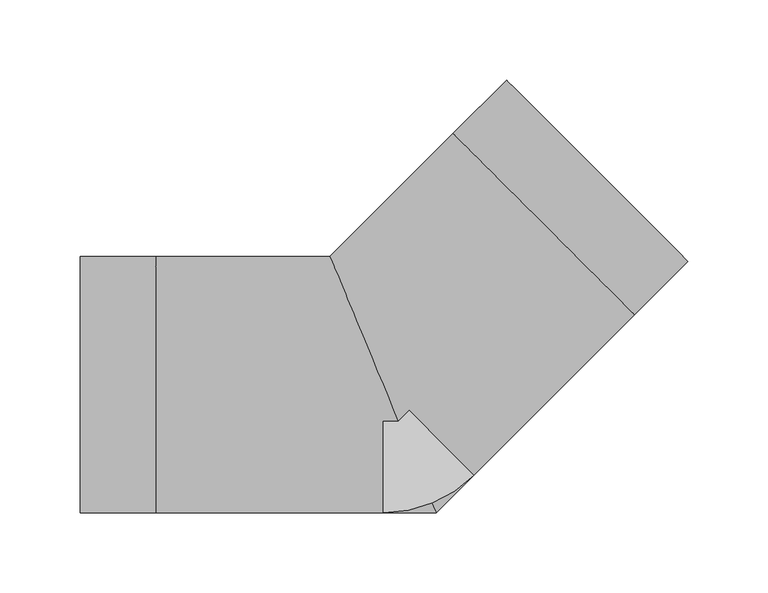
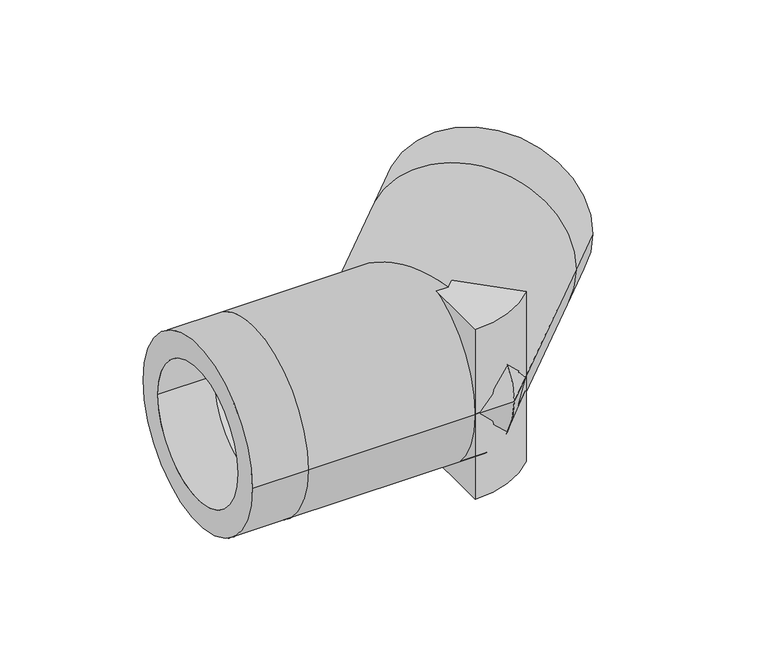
"""IFC4 building model written with IfcOpenShell, lengths in millimetres: pipe fitting geometry, Aquatherm - Elbow Green BW Segmented : SDR 7.4 FASER."""

from ifc_helpers import new_model, si_unit, point, frame, origin, origin_with_axes, origin_2d, place, context, project, spatial, polyline, circle_curve, ellipse_curve, trimmed, segment, composite_curve, outline, extrude, source, transform, mapped, element, save
from ifc_brep_helpers import plane_surface, cylinder_surface, revolved_surface, advanced_brep


def pipe_fitting_d16a7af6(model_context):
    return source(origin(), model_context, "Body", "SolidModel", [
        extrude(outline(composite_curve([segment(polyline([(0.0, -80.01), (0.0, 0.0), (56.5756136, -56.5756136)]), True, "CONTINUOUS"), segment(trimmed(circle_curve(origin_2d(), 80.01), [point((56.5756136, -56.5756136))], [point((0.0, -80.01))], False, "CARTESIAN"), True, "CONTINUOUS")], self_intersect=False)), frame((0.0, 0.0, -76.2), z_axis=(0.0, 0.0, 1.0), x_axis=(1.0, 0.0, 0.0)), (0.0, 0.0, 1.0), 76.2),
        extrude(outline(composite_curve([segment(trimmed(circle_curve(origin_2d(), 80.01), [point((56.5756136, -56.5756136))], [point((0.0, -80.01))], False, "CARTESIAN"), True, "CONTINUOUS"), segment(polyline([(0.0, -80.01), (0.0, 0.0), (56.5756136, -56.5756136)]), True, "CONTINUOUS")], self_intersect=False)), origin_with_axes(), (0.0, 0.0, 1.0), 76.2),
        advanced_brep(
        [(-188.976, -80.01, 0.0), (-188.976, 80.01, 0.0), (-188.976, -58.3811088, 0.0), (-188.976, 58.3811088, 0.0), (190.2018246, 77.0505975, 0.0), (77.0505975, 190.2018246, 0.0), (174.907889, 92.3445332, 0.0), (92.3445332, 174.907889, 0.0), (-141.732, -80.01, 0.0), (-141.732, 80.01, 0.0), (-141.732, -58.3811088, 0.0), (-141.732, 58.3811088, 0.0), (33.1412271, -80.01, 0.0), (-33.1412271, 80.01, 0.0), (24.182247, -58.3811088, 0.0), (-24.182247, 58.3811088, 0.0), (156.7952719, 43.6440447, 0.0), (43.6440447, 156.7952719, 0.0), (141.5013362, 58.9379804, 0.0), (58.9379804, 141.5013362, 0.0)],
        [
            (0, 1, circle_curve(frame((-188.976, 0.0, 0.0), z_axis=(-1.0, 0.0, 0.0), x_axis=(0.0, 1.0, 0.0)), 80.01)),
            (1, 0, circle_curve(frame((-188.976, 0.0, 0.0), z_axis=(-1.0, 0.0, 0.0), x_axis=(0.0, 1.0, 0.0)), 80.01)),
            (2, 3, circle_curve(frame((-188.976, 0.0, 0.0), z_axis=(1.0, 0.0, 0.0), x_axis=(0.0, 1.0, 0.0)), 58.3811088)),
            (3, 2, circle_curve(frame((-188.976, 0.0, 0.0), z_axis=(1.0, 0.0, 0.0), x_axis=(0.0, 1.0, 0.0)), 58.3811088)),
            (4, 5, circle_curve(frame((133.6262111, 133.6262111, 0.0), z_axis=(0.7071067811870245, 0.7071067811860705, 0.0), x_axis=(-0.7071067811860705, 0.7071067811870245, 0.0)), 80.01)),
            (5, 4, circle_curve(frame((133.6262111, 133.6262111, 0.0), z_axis=(0.7071067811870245, 0.7071067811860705, 0.0), x_axis=(-0.7071067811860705, 0.7071067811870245, 0.0)), 80.01)),
            (6, 7, circle_curve(frame((133.6262111, 133.6262111, 0.0), z_axis=(-0.7071067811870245, -0.7071067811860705, 0.0), x_axis=(-0.7071067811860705, 0.7071067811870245, 0.0)), 58.3811088)),
            (7, 6, circle_curve(frame((133.6262111, 133.6262111, 0.0), z_axis=(-0.7071067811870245, -0.7071067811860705, 0.0), x_axis=(-0.7071067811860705, 0.7071067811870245, 0.0)), 58.3811088)),
            (0, 8),
            (8, 9, circle_curve(frame((-141.732, 0.0, 0.0), z_axis=(-1.0, 0.0, 0.0), x_axis=(0.0, 1.0, 0.0)), 80.01)),
            (9, 1),
            (9, 8, circle_curve(frame((-141.732, 0.0, 0.0), z_axis=(-1.0, 0.0, 0.0), x_axis=(0.0, 1.0, 0.0)), 80.01)),
            (2, 10),
            (10, 11, circle_curve(frame((-141.732, 0.0, 0.0), z_axis=(1.0, 0.0, 0.0), x_axis=(0.0, 1.0, 0.0)), 58.3811088)),
            (11, 3),
            (11, 10, circle_curve(frame((-141.732, 0.0, 0.0), z_axis=(1.0, 0.0, 0.0), x_axis=(0.0, 1.0, 0.0)), 58.3811088)),
            (8, 12),
            (12, 13, ellipse_curve(frame((0.0, 0.0, 0.0), z_axis=(-0.9238795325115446, -0.38268343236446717, 0.0), x_axis=(-0.3826834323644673, 0.9238795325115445, 0.0)), 86.6021999, 80.01)),
            (13, 9),
            (13, 12, ellipse_curve(frame((0.0, 0.0, 0.0), z_axis=(-0.9238795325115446, -0.38268343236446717, 0.0), x_axis=(-0.3826834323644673, 0.9238795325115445, 0.0)), 86.6021999, 80.01)),
            (10, 14),
            (14, 15, ellipse_curve(frame((0.0, 0.0, 0.0), z_axis=(0.9238795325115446, 0.38268343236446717, 0.0), x_axis=(0.3826834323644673, -0.9238795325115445, 0.0)), 63.1912568, 58.3811088)),
            (15, 11),
            (15, 14, ellipse_curve(frame((0.0, 0.0, 0.0), z_axis=(0.9238795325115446, 0.38268343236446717, 0.0), x_axis=(0.3826834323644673, -0.9238795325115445, 0.0)), 63.1912568, 58.3811088)),
            (12, 16),
            (16, 17, circle_curve(frame((100.2196583, 100.2196583, 0.0), z_axis=(-0.7071067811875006, -0.7071067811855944, 0.0), x_axis=(-0.7071067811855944, 0.7071067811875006, 0.0)), 80.01)),
            (17, 13),
            (17, 16, circle_curve(frame((100.2196583, 100.2196583, 0.0), z_axis=(-0.7071067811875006, -0.7071067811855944, 0.0), x_axis=(-0.7071067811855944, 0.7071067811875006, 0.0)), 80.01)),
            (14, 18),
            (18, 19, circle_curve(frame((100.2196583, 100.2196583, 0.0), z_axis=(0.7071067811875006, 0.7071067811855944, 0.0), x_axis=(-0.7071067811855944, 0.7071067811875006, 0.0)), 58.3811088)),
            (19, 15),
            (19, 18, circle_curve(frame((100.2196583, 100.2196583, 0.0), z_axis=(0.7071067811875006, 0.7071067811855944, 0.0), x_axis=(-0.7071067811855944, 0.7071067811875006, 0.0)), 58.3811088)),
            (16, 4),
            (5, 17),
            (18, 6),
            (7, 19),
        ],
        [
            plane_surface(frame((-188.976, 0.0, 0.0), z_axis=(-1.0, 0.0, 0.0), x_axis=(0.0, 0.0, 1.0))),
            plane_surface(frame((133.6262111, 133.6262111, 0.0), z_axis=(0.7071067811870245, 0.7071067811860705, 0.0), x_axis=(0.0, 0.0, 1.0))),
            cylinder_surface(frame((-188.976, 0.0, 0.0), z_axis=(-1.0, 0.0, 0.0), x_axis=(0.0, 1.0, 0.0)), 80.01),
            revolved_surface(polyline([(-141.732, 58.3811088, 0.0), (-188.976, 58.3811088, 0.0)]), (-188.976, 0.0, 0.0), (1.0, 0.0, 0.0)),
            cylinder_surface(frame((-141.732, 0.0, 0.0), z_axis=(-1.0, 0.0, 0.0), x_axis=(0.0, 1.0, 0.0)), 80.01),
            revolved_surface(polyline([(24.182247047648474, 58.3811088, 0.0), (-141.732, 58.3811088, 0.0)]), (-141.732, 0.0, 0.0), (1.0, 0.0, 0.0)),
            cylinder_surface(frame((0.0, 0.0, 0.0), z_axis=(-0.7071067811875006, -0.7071067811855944, 0.0), x_axis=(-0.7071067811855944, 0.7071067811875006, 0.0)), 80.01),
            revolved_surface(polyline([(58.93798037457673, 141.50133622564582, 0.0), (-58.38110882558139, 24.18224702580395, 0.0)]), (0.0, 0.0, 0.0), (0.7071067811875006, 0.7071067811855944, 0.0)),
            cylinder_surface(frame((100.2196583, 100.2196583, 0.0), z_axis=(-0.7071067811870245, -0.7071067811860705, 0.0), x_axis=(-0.7071067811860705, 0.7071067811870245, 0.0)), 80.01),
            revolved_surface(polyline([(92.34453317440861, 174.9078890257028, 0.0), (58.93798037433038, 141.50133622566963, 0.0)]), (100.2196583, 100.2196583, 0.0), (0.7071067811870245, 0.7071067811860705, 0.0)),
        ],
        [
            (0, [[1, 2], [3, 4]]),
            (1, [[5, 6], [7, 8]]),
            (2, [[-1, 9, 10, 11]]),
            (2, [[-2, -11, 12, -9]]),
            (3, [[-3, 13, 14, 15]]),
            (3, [[-4, -15, 16, -13]]),
            (4, [[-10, 17, 18, 19]]),
            (4, [[-12, -19, 20, -17]]),
            (5, [[-14, 21, 22, 23]]),
            (5, [[-16, -23, 24, -21]]),
            (6, [[-18, 25, 26, 27]]),
            (6, [[-20, -27, 28, -25]]),
            (7, [[-22, 29, 30, 31]]),
            (7, [[-24, -31, 32, -29]]),
            (8, [[-26, 33, -6, 34]]),
            (8, [[-28, -34, -5, -33]]),
            (9, [[-30, 35, -8, 36]]),
            (9, [[-32, -36, -7, -35]]),
        ],
    ),
    ])


if __name__ == "__main__":
    model = new_model("IFC4")
    model_context = context("Model", 3, world=origin())
    ifc_project = project(units=[si_unit("LENGTHUNIT", "METRE", prefix="MILLI")], contexts=[model_context])
    site = spatial("IfcSite", under=ifc_project)
    building = spatial("IfcBuilding", under=site)
    placement = place(None, origin())
    pipe_fitting_shape = pipe_fitting_d16a7af6(model_context)
    element("IfcPipeFitting", 1, ObjectType="Aquatherm - Elbow Green BW Segmented : SDR 7.4 FASER", at=placement, inside=building, context=model_context, shape_type="MappedRepresentation", body=[
        mapped(pipe_fitting_shape, transform((0.0, 0.0, 0.0), x_axis=(1.0, 0.0, 0.0), y_axis=(0.0, 1.0, 0.0), z_axis=(0.0, 0.0, 1.0))),
    ])
    save(model, "model.ifc")
